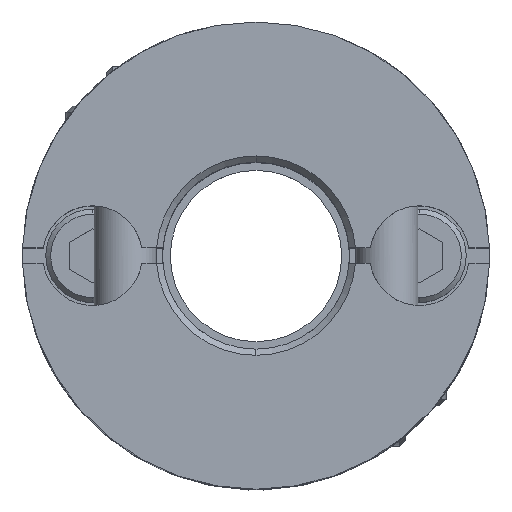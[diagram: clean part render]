
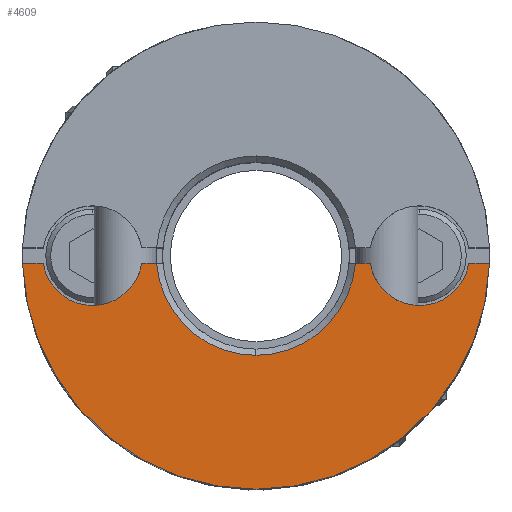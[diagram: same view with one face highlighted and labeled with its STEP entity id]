
A CAD part, top view. The second image highlights one B-rep face of the part: STEP entity #4609.
In plain terms, the highlighted planar face has unit normal (0, 0, 1).
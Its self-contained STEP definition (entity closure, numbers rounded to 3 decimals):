
#1969=CARTESIAN_POINT('',(0.,-7.5,8.1));
#1970=VERTEX_POINT('',#1969);
#2054=CARTESIAN_POINT('',(7.496,-0.25,8.1));
#2055=VERTEX_POINT('',#2054);
#2062=CARTESIAN_POINT('',(0.,0.,8.1));
#2063=DIRECTION('',(0.0,0.0,-1.0));
#2064=DIRECTION('',(0.0,-1.0,0.0));
#2065=AXIS2_PLACEMENT_3D('',#2062,#2063,#2064);
#2066=CIRCLE('',#2065,7.5);
#2067=EDGE_CURVE('',#2055,#1970,#2066,.T.);
#2396=CARTESIAN_POINT('',(0.,-3.2,8.1));
#2397=VERTEX_POINT('',#2396);
#2413=CARTESIAN_POINT('',(-3.19,-0.25,8.1));
#2414=VERTEX_POINT('',#2413);
#2428=CARTESIAN_POINT('',(0.,0.,8.1));
#2429=DIRECTION('',(0.0,0.0,1.0));
#2430=DIRECTION('',(0.0,-1.0,0.0));
#2431=AXIS2_PLACEMENT_3D('',#2428,#2429,#2430);
#2432=CIRCLE('',#2431,3.2);
#2433=EDGE_CURVE('',#2414,#2397,#2432,.T.);
#2579=CARTESIAN_POINT('',(-5.25,-1.6,8.1));
#2580=VERTEX_POINT('',#2579);
#2589=CARTESIAN_POINT('',(-3.67,-0.25,8.1));
#2590=VERTEX_POINT('',#2589);
#2591=CARTESIAN_POINT('',(-5.25,0.,8.1));
#2592=DIRECTION('',(0.0,0.0,-1.0));
#2593=DIRECTION('',(0.0,-1.0,0.0));
#2594=AXIS2_PLACEMENT_3D('',#2591,#2592,#2593);
#2595=CIRCLE('',#2594,1.6);
#2596=EDGE_CURVE('',#2590,#2580,#2595,.T.);
#2809=CARTESIAN_POINT('',(5.25,-1.6,8.1));
#2810=VERTEX_POINT('',#2809);
#2819=CARTESIAN_POINT('',(6.83,-0.25,8.1));
#2820=VERTEX_POINT('',#2819);
#2821=CARTESIAN_POINT('',(5.25,0.,8.1));
#2822=DIRECTION('',(0.0,0.0,-1.0));
#2823=DIRECTION('',(0.0,-1.0,0.0));
#2824=AXIS2_PLACEMENT_3D('',#2821,#2822,#2823);
#2825=CIRCLE('',#2824,1.6);
#2826=EDGE_CURVE('',#2820,#2810,#2825,.T.);
#3966=CARTESIAN_POINT('',(-3.19,-0.25,8.1));
#3967=DIRECTION('',(-1.0,0.0,0.0));
#3968=VECTOR('',#3967,0.479);
#3969=LINE('',#3966,#3968);
#3970=EDGE_CURVE('',#2414,#2590,#3969,.T.);
#4269=CARTESIAN_POINT('',(3.67,-0.25,8.1));
#4270=VERTEX_POINT('',#4269);
#4277=CARTESIAN_POINT('',(5.25,0.,8.1));
#4278=DIRECTION('',(0.0,0.0,-1.0));
#4279=DIRECTION('',(0.0,-1.0,0.0));
#4280=AXIS2_PLACEMENT_3D('',#4277,#4278,#4279);
#4281=CIRCLE('',#4280,1.6);
#4282=EDGE_CURVE('',#2810,#4270,#4281,.T.);
#4373=CARTESIAN_POINT('',(3.19,-0.25,8.1));
#4374=VERTEX_POINT('',#4373);
#4388=CARTESIAN_POINT('',(3.67,-0.25,8.1));
#4389=DIRECTION('',(-1.0,0.0,0.0));
#4390=VECTOR('',#4389,0.479);
#4391=LINE('',#4388,#4390);
#4392=EDGE_CURVE('',#4270,#4374,#4391,.T.);
#4413=CARTESIAN_POINT('',(-6.83,-0.25,8.1));
#4414=VERTEX_POINT('',#4413);
#4421=CARTESIAN_POINT('',(-5.25,0.,8.1));
#4422=DIRECTION('',(0.0,0.0,-1.0));
#4423=DIRECTION('',(0.0,-1.0,0.0));
#4424=AXIS2_PLACEMENT_3D('',#4421,#4422,#4423);
#4425=CIRCLE('',#4424,1.6);
#4426=EDGE_CURVE('',#2580,#4414,#4425,.T.);
#4560=CARTESIAN_POINT('',(0.,0.,8.1));
#4561=DIRECTION('',(0.0,0.0,1.0));
#4562=DIRECTION('',(0.0,-1.0,0.0));
#4563=AXIS2_PLACEMENT_3D('',#4560,#4561,#4562);
#4564=CIRCLE('',#4563,3.2);
#4565=EDGE_CURVE('',#2397,#4374,#4564,.T.);
#4572=CARTESIAN_POINT('',(0.,-0.682,8.1));
#4573=DIRECTION('',(0.0,0.0,1.0));
#4574=DIRECTION('',(0.0,-1.0,0.0));
#4575=AXIS2_PLACEMENT_3D('',#4572,#4573,#4574);
#4576=PLANE('',#4575);
#4577=ORIENTED_EDGE('',*,*,#2433,.F.);
#4578=ORIENTED_EDGE('',*,*,#3970,.T.);
#4579=ORIENTED_EDGE('',*,*,#2596,.T.);
#4580=ORIENTED_EDGE('',*,*,#4426,.T.);
#4581=CARTESIAN_POINT('',(-7.496,-0.25,8.1));
#4582=VERTEX_POINT('',#4581);
#4583=CARTESIAN_POINT('',(-6.83,-0.25,8.1));
#4584=DIRECTION('',(-1.0,0.0,0.0));
#4585=VECTOR('',#4584,0.665);
#4586=LINE('',#4583,#4585);
#4587=EDGE_CURVE('',#4414,#4582,#4586,.T.);
#4588=ORIENTED_EDGE('',*,*,#4587,.T.);
#4589=CARTESIAN_POINT('',(0.,0.,8.1));
#4590=DIRECTION('',(0.0,0.0,-1.0));
#4591=DIRECTION('',(0.0,-1.0,0.0));
#4592=AXIS2_PLACEMENT_3D('',#4589,#4590,#4591);
#4593=CIRCLE('',#4592,7.5);
#4594=EDGE_CURVE('',#1970,#4582,#4593,.T.);
#4595=ORIENTED_EDGE('',*,*,#4594,.F.);
#4596=ORIENTED_EDGE('',*,*,#2067,.F.);
#4597=CARTESIAN_POINT('',(7.496,-0.25,8.1));
#4598=DIRECTION('',(-1.0,0.0,0.0));
#4599=VECTOR('',#4598,0.665);
#4600=LINE('',#4597,#4599);
#4601=EDGE_CURVE('',#2055,#2820,#4600,.T.);
#4602=ORIENTED_EDGE('',*,*,#4601,.T.);
#4603=ORIENTED_EDGE('',*,*,#2826,.T.);
#4604=ORIENTED_EDGE('',*,*,#4282,.T.);
#4605=ORIENTED_EDGE('',*,*,#4392,.T.);
#4606=ORIENTED_EDGE('',*,*,#4565,.F.);
#4607=EDGE_LOOP('',(#4577,#4578,#4579,#4580,#4588,#4595,#4596,#4602,#4603,#4604,#4605,#4606));
#4608=FACE_OUTER_BOUND('',#4607,.T.);
#4609=ADVANCED_FACE('',(#4608),#4576,.T.);
